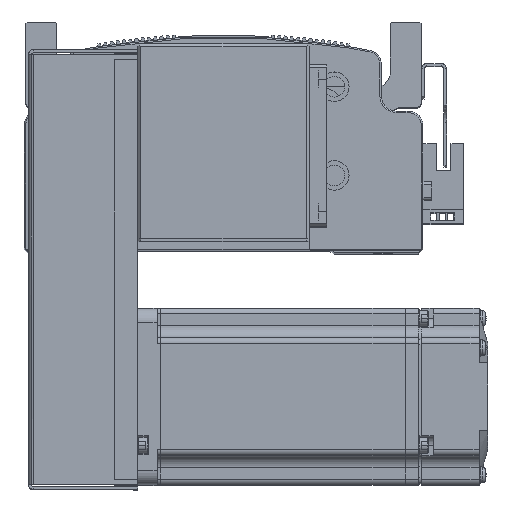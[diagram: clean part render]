
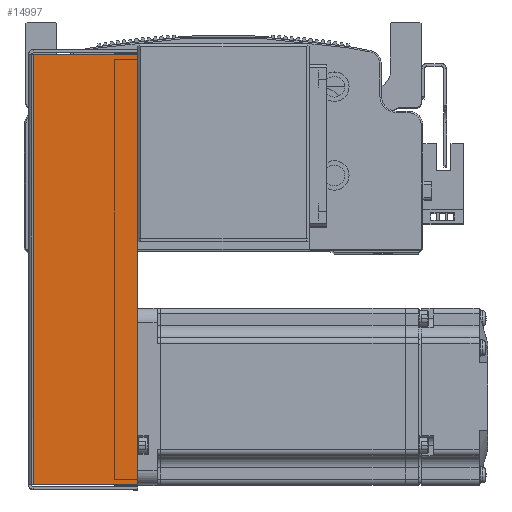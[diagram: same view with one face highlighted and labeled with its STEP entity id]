
A CAD part, top view. The second image highlights one B-rep face of the part: STEP entity #14997.
In plain terms, the highlighted planar face has unit normal (0, 0, 1) as drawn and (0, 0, -1) by its records, which use the part's own axes.
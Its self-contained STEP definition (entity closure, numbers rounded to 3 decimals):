
#1689 = EDGE_LOOP ( 'NONE', ( #71820, #71823, #71839, #71809 ) ) ;
#14997 = ADVANCED_FACE ( 'NONE', ( #61001 ), #58275, .F. ) ;
#28655 = VERTEX_POINT ( 'NONE', #47134 ) ;
#28668 = VERTEX_POINT ( 'NONE', #47080 ) ;
#28731 = VERTEX_POINT ( 'NONE', #47101 ) ;
#28751 = VERTEX_POINT ( 'NONE', #47120 ) ;
#31239 = VECTOR ( 'NONE', #41163, 1000. ) ;
#31258 = VECTOR ( 'NONE', #41162, 1000. ) ;
#31282 = LINE ( 'NONE', #41109, #31239 ) ;
#31291 = LINE ( 'NONE', #41112, #31258 ) ;
#31319 = LINE ( 'NONE', #41341, #31334 ) ;
#31334 = VECTOR ( 'NONE', #41333, 1000. ) ;
#31372 = LINE ( 'NONE', #41416, #31376 ) ;
#31376 = VECTOR ( 'NONE', #41434, 1000. ) ;
#41109 = CARTESIAN_POINT ( 'NONE',  ( -72.793, 0., -34.5 ) ) ;
#41112 = CARTESIAN_POINT ( 'NONE',  ( 0., 36., -34.5 ) ) ;
#41162 = DIRECTION ( 'NONE',  ( 1., 0., 0. ) ) ;
#41163 = DIRECTION ( 'NONE',  ( 0., 1., 0. ) ) ;
#41333 = DIRECTION ( 'NONE',  ( 1., 0., 0. ) ) ;
#41341 = CARTESIAN_POINT ( 'NONE',  ( 74.5, 0.737, -34.5 ) ) ;
#41416 = CARTESIAN_POINT ( 'NONE',  ( 72.793, 0., -34.5 ) ) ;
#41434 = DIRECTION ( 'NONE',  ( 0., 1., 0. ) ) ;
#47080 = CARTESIAN_POINT ( 'NONE',  ( 72.793, 0.737, -34.5 ) ) ;
#47101 = CARTESIAN_POINT ( 'NONE',  ( 72.793, 36., -34.5 ) ) ;
#47120 = CARTESIAN_POINT ( 'NONE',  ( -72.793, 0.737, -34.5 ) ) ;
#47134 = CARTESIAN_POINT ( 'NONE',  ( -72.793, 36., -34.5 ) ) ;
#58275 = PLANE ( 'NONE',  #74575 ) ;
#58279 = DIRECTION ( 'NONE',  ( 0., -1., 0. ) ) ;
#58286 = CARTESIAN_POINT ( 'NONE',  ( 0., 0., -34.5 ) ) ;
#58315 = DIRECTION ( 'NONE',  ( 0., 0., 1. ) ) ;
#61001 = FACE_OUTER_BOUND ( 'NONE', #1689, .T. ) ;
#71809 = ORIENTED_EDGE ( 'NONE', *, *, #77354, .F. ) ;
#71820 = ORIENTED_EDGE ( 'NONE', *, *, #77293, .F. ) ;
#71823 = ORIENTED_EDGE ( 'NONE', *, *, #77189, .T. ) ;
#71839 = ORIENTED_EDGE ( 'NONE', *, *, #77191, .T. ) ;
#74575 = AXIS2_PLACEMENT_3D ( 'NONE', #58286, #58315, #58279 ) ;
#77189 = EDGE_CURVE ( 'NONE', #28751, #28655, #31282, .T. ) ;
#77191 = EDGE_CURVE ( 'NONE', #28655, #28731, #31291, .T. ) ;
#77293 = EDGE_CURVE ( 'NONE', #28751, #28668, #31319, .T. ) ;
#77354 = EDGE_CURVE ( 'NONE', #28668, #28731, #31372, .T. ) ;
